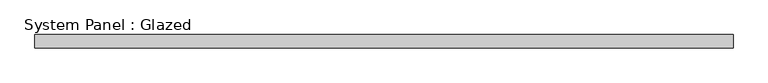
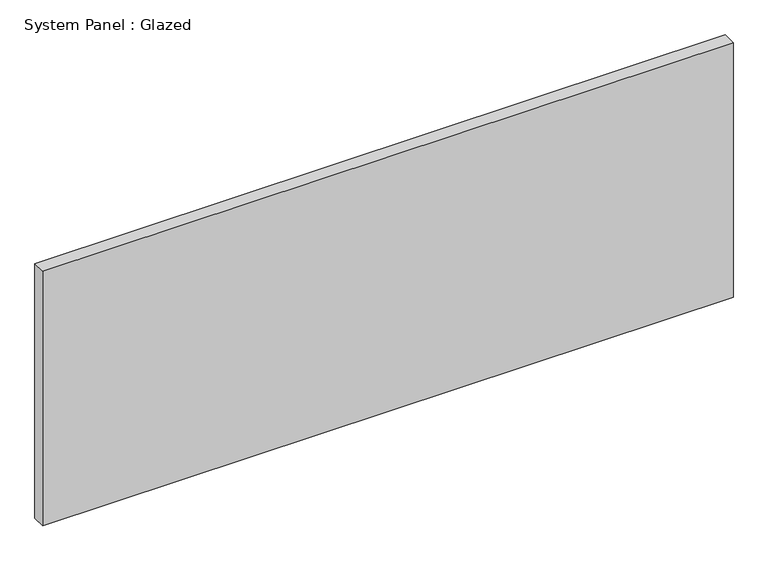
"""IFC4 building model written with IfcOpenShell, lengths in millimetres: plate geometry, System Panel : Glazed."""

from ifc_helpers import new_model, si_unit, origin, origin_with_axes, place, context, project, spatial, polyline, outline, extrude, source, transform, mapped, element, save


def system_panel_glazed_2f6f4404(model_context):
    return source(origin(), model_context, "Body", "SweptSolid", [
        extrude(outline(polyline([(655.4238159, 19.05), (-655.4238159, 19.05), (-655.4238159, 44.45), (655.4238159, 44.45), (655.4238159, 19.05)])), origin_with_axes(), (0.0, 0.0, 1.0), 511.3509366),
    ])


if __name__ == "__main__":
    model = new_model("IFC4")
    model_context = context("Model", 3, world=origin())
    ifc_project = project(units=[si_unit("LENGTHUNIT", "METRE", prefix="MILLI")], contexts=[model_context])
    site = spatial("IfcSite", under=ifc_project)
    building = spatial("IfcBuilding", under=site)
    placement = place(None, origin())
    system_panel_glazed_shape = system_panel_glazed_2f6f4404(model_context)
    element("IfcPlate", 1, ObjectType="System Panel : Glazed", at=placement, inside=building, context=model_context, shape_type="MappedRepresentation", body=[
        mapped(system_panel_glazed_shape, transform((0.0, 0.0, 0.0), x_axis=(1.0, 0.0, 0.0), y_axis=(0.0, 1.0, 0.0), z_axis=(0.0, 0.0, 1.0))),
    ])
    save(model, "model.ifc")
